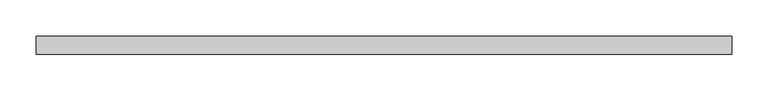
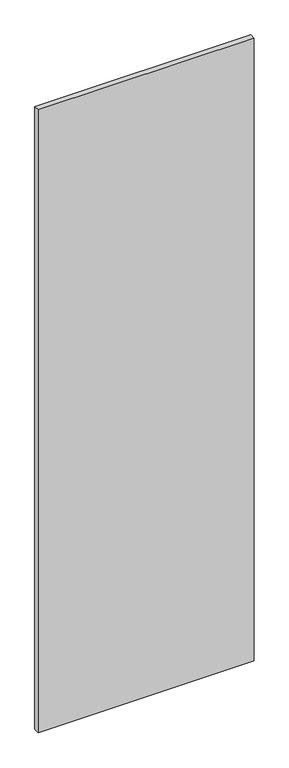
"""IFC4 building model written with IfcOpenShell, lengths in millimetres: plate geometry, Системная панель : ADSK_Cтеклопакет_25."""

from ifc_helpers import new_model, si_unit, origin, origin_with_axes, place, context, project, spatial, polyline, outline, extrude, source, transform, mapped, element, save


def plate_5ef97c14(model_context):
    return source(origin(), model_context, "Body", "SweptSolid", [
        extrude(outline(polyline([(480.0, -12.5), (-480.0, -12.5), (-480.0, 12.5), (480.0, 12.5), (480.0, -12.5)])), origin_with_axes(), (0.0, 0.0, 1.0), 2925.0),
    ])


if __name__ == "__main__":
    model = new_model("IFC4")
    model_context = context("Model", 3, world=origin())
    ifc_project = project(units=[si_unit("LENGTHUNIT", "METRE", prefix="MILLI")], contexts=[model_context])
    site = spatial("IfcSite", under=ifc_project)
    building = spatial("IfcBuilding", under=site)
    placement = place(None, origin())
    plate_shape = plate_5ef97c14(model_context)
    element("IfcPlate", 1, ObjectType="Системная панель : ADSK_Cтеклопакет_25", at=placement, inside=building, context=model_context, shape_type="MappedRepresentation", body=[
        mapped(plate_shape, transform((0.0, 0.0, 0.0), x_axis=(1.0, 0.0, 0.0), y_axis=(0.0, 1.0, 0.0), z_axis=(0.0, 0.0, 1.0))),
    ])
    save(model, "model.ifc")
